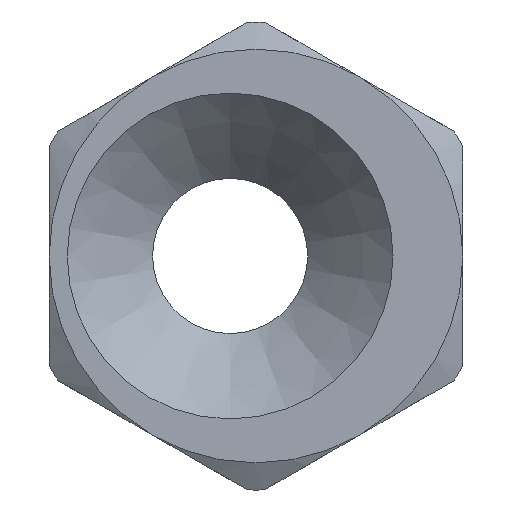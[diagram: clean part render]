
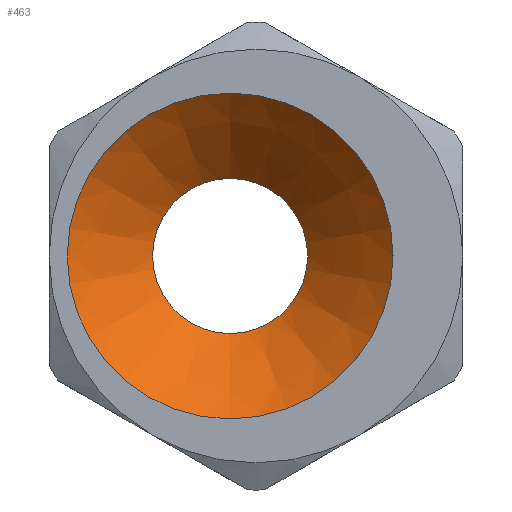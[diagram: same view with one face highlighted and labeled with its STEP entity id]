
A CAD part, left-side view. The second image highlights one B-rep face of the part: STEP entity #463.
In plain terms, the highlighted conical face has half-angle 45 degrees and reference radius 6.3 mm.
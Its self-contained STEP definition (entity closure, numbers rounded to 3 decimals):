
#211=ORIENTED_EDGE('',*,*,#279,.T.);
#212=ORIENTED_EDGE('',*,*,#278,.F.);
#278=EDGE_CURVE('',#319,#319,#348,.T.);
#279=EDGE_CURVE('',#320,#320,#349,.T.);
#319=VERTEX_POINT('',#872);
#320=VERTEX_POINT('',#876);
#348=CIRCLE('',#532,6.3);
#349=CIRCLE('',#535,3.);
#382=EDGE_LOOP('',(#211));
#383=EDGE_LOOP('',(#212));
#418=FACE_BOUND('',#382,.T.);
#419=FACE_BOUND('',#383,.T.);
#434=CONICAL_SURFACE('',#534,6.3,0.785);
#463=ADVANCED_FACE('',(#418,#419),#434,.F.);
#532=AXIS2_PLACEMENT_3D('',#871,#659,#660);
#534=AXIS2_PLACEMENT_3D('',#874,#663,#664);
#535=AXIS2_PLACEMENT_3D('',#875,#665,#666);
#659=DIRECTION('',(1.,0.,0.));
#660=DIRECTION('',(0.,0.,-1.));
#663=DIRECTION('',(-1.,0.,0.));
#664=DIRECTION('',(0.,0.,1.));
#665=DIRECTION('',(1.,0.,0.));
#666=DIRECTION('',(0.,0.,-1.));
#871=CARTESIAN_POINT('',(0.,1.,0.));
#872=CARTESIAN_POINT('',(0.,1.,-6.3));
#874=CARTESIAN_POINT('',(0.,1.,0.));
#875=CARTESIAN_POINT('',(3.3,1.,0.));
#876=CARTESIAN_POINT('',(3.3,1.,-3.));
